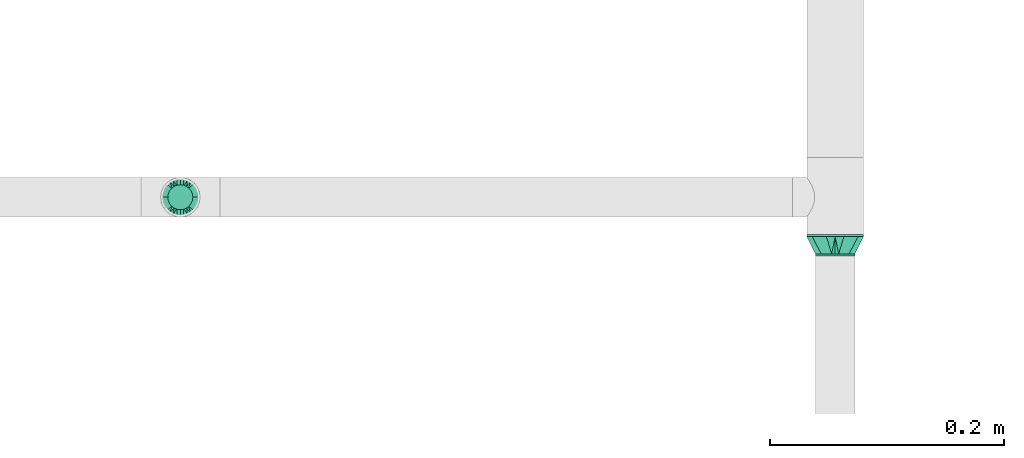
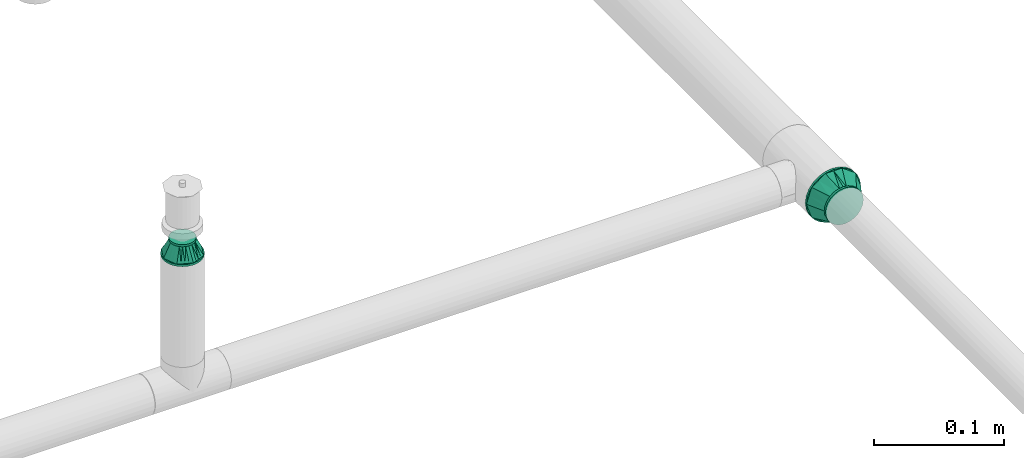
# One storey, part 31 of 157: 2 flow fittings.
"""IFC2X3 building model written with IfcOpenShell, lengths in millimetres."""

from ifc_helpers import new_model, entity, si_unit, converted_unit, derived_unit, direction, frame, origin_with_axes, place, context, subcontext, project, spatial, open_shell, surface_model, source, transform, mapped, type_object, element, save


model = new_model("IFC2X3")

# Units and contexts
model_context = context("Model", 3, precision=0.01, world=frame((0.0, 4.29681676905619e-09, 0.0)), true_north=direction((4.01073788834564e-13, 1.0)))
plan_context = context("Plan", 3, precision=0.01, world=frame((0.0, 4.29681676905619e-09, 0.0)), true_north=direction((4.01073788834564e-13, 1.0)))
body_context = subcontext(model_context, "Body", "Model", "MODEL_VIEW")
ifc_project = project(units=[converted_unit("PLANEANGLEUNIT", "DEGREE", entity("IfcPositiveLengthMeasure", 0.0174532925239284), si_unit("PLANEANGLEUNIT", "RADIAN"), dimensions=[0, 0, 0, 0, 0, 0, 0]), si_unit("AREAUNIT", "SQUARE_METRE"), si_unit("LENGTHUNIT", "METRE", prefix="MILLI"), si_unit("MASSUNIT", "GRAM", prefix="KILO"), si_unit("POWERUNIT", "WATT"), si_unit("PRESSUREUNIT", "PASCAL"), si_unit("FORCEUNIT", "NEWTON", prefix="KILO"), si_unit("ELECTRICCURRENTUNIT", "AMPERE"), si_unit("THERMODYNAMICTEMPERATUREUNIT", "DEGREE_CELSIUS"), si_unit("TIMEUNIT", "SECOND"), si_unit("VOLUMEUNIT", "CUBIC_METRE"), derived_unit("LINEARVELOCITYUNIT", [(si_unit("LENGTHUNIT", "METRE"), 1), (si_unit("TIMEUNIT", "SECOND"), -1)]), derived_unit("VOLUMETRICFLOWRATEUNIT", [(si_unit("VOLUMEUNIT", "CUBIC_METRE"), 1), (si_unit("TIMEUNIT", "SECOND"), -1)]), derived_unit("THERMALTRANSMITTANCEUNIT", [(si_unit("POWERUNIT", "WATT"), 1), (si_unit("THERMODYNAMICTEMPERATUREUNIT", "KELVIN"), -1), (si_unit("AREAUNIT", "SQUARE_METRE"), -1)])], contexts=[model_context, plan_context])

# Site, building, storey
site_placement = place(None, frame((0.0, -4.29681676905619e-09, 0.0), z_axis=(0.0, 0.0, 1.0), x_axis=(1.0, 0.0, 0.0)))
site = spatial("IfcSite", under=ifc_project, at=site_placement, CompositionType="ELEMENT")
building_placement = place(site_placement, frame((0.0, 4.29681676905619e-09, 0.0), z_axis=(0.0, 0.0, 1.0), x_axis=(1.0, 0.0, 0.0)))
building = spatial("IfcBuilding", under=site, at=building_placement, Name="mc-building", CompositionType="ELEMENT")
storey_placement = place(building_placement, frame((0.0, 0.0, 204000.0), z_axis=(0.0, 0.0, 1.0), x_axis=(1.0, 0.0, 0.0)))
storey = spatial("IfcBuildingStorey", under=building, at=storey_placement, Name="Nivå D", CompositionType="ELEMENT", Elevation=204000.0)

# Flow fittings
pipe_fitting_type = type_object("IfcPipeFittingType", Name="magi_pipe_fe_reducer_centric_short_NOR", PredefinedType="TRANSITION")
shared_shape_1 = source(origin_with_axes(), body_context, "Body", "SurfaceModel", [
    surface_model("IfcShellBasedSurfaceModel", [(14.4, 5.35, -9.26647), (14.4, 0.0, -10.7), (14.4, 2.76936, -10.33541), (14.4, 10.33541, -2.76936), (14.4, 7.56604, -7.56604), (14.4, -10.33541, -2.76936), (14.4, 9.26647, -5.35), (14.4, 0.0, 10.7), (14.4, -5.35, -9.26647), (14.4, -2.76936, -10.33541), (14.4, -7.56604, -7.56604), (14.4, -9.26647, -5.35), (14.4, 10.7, 0.0), (14.4, 10.33541, 2.76936), (14.4, 9.26647, 5.35), (14.4, 7.56604, 7.56604), (14.4, 2.76936, 10.33541), (14.4, 5.35, 9.26647), (14.4, -10.33541, 2.76936), (14.4, -7.56604, 7.56604), (14.4, -9.26647, 5.35), (14.4, -10.7, 0.0), (14.4, -2.76936, 10.33541), (14.4, -5.35, 9.26647), (12.4, 2.76936, 10.33541), (12.4, -10.33541, -2.76936), (12.4, 0.0, 10.7), (12.4, 5.35, 9.26647), (12.4, 7.56604, 7.56604), (12.4, 9.26647, 5.35), (12.4, 10.33541, 2.76936), (12.4, -10.33541, 2.76936), (12.4, -2.76936, 10.33541), (12.4, -7.56604, 7.56604), (12.4, -5.35, 9.26647), (12.4, -9.26647, 5.35), (12.4, -10.7, 0.0), (12.4, 10.33541, -2.76936), (12.4, 5.35, -9.26647), (12.4, 9.26647, -5.35), (12.4, 7.56604, -7.56604), (12.4, 2.76936, -10.33541), (12.4, -9.26647, -5.35), (12.4, -5.35, -9.26647), (12.4, -7.56604, -7.56604), (12.4, 0.0, -10.7), (12.4, -2.76936, -10.33541), (12.4, 10.7, 0.0), (-2.0, 11.9501, 11.9501), (-2.0, 0.0, 16.9), (-2.0, 4.37404, 16.32415), (-2.0, 8.45, 14.63583), (-2.0, 14.63583, 8.45), (-2.0, 16.32415, 4.37404), (-2.0, -16.32415, 4.37404), (-2.0, -8.45, 14.63583), (-2.0, -14.63583, 8.45), (-2.0, -11.9501, 11.9501), (-2.0, -4.37404, 16.32415), (-2.0, -16.32415, -4.37404), (-2.0, -16.9, 0.0), (-2.0, -8.45, -14.63583), (-2.0, 16.32415, -4.37404), (-2.0, 11.9501, -11.9501), (-2.0, 14.63583, -8.45), (-2.0, 8.45, -14.63583), (-2.0, 4.37404, -16.32415), (-2.0, 0.0, -16.9), (-2.0, -11.9501, -11.9501), (-2.0, -14.63583, -8.45), (-2.0, -4.37404, -16.32415), (-2.0, 16.9, 0.0), (0.0, 4.37404, -16.32415), (0.0, 8.45, -14.63583), (0.0, 11.9501, -11.9501), (0.0, 0.0, -16.9), (0.0, 16.32415, -4.37404), (0.0, 16.32415, 4.37404), (0.0, 14.63583, -8.45), (0.0, -8.45, -14.63583), (0.0, -4.37404, -16.32415), (0.0, -11.9501, -11.9501), (0.0, -16.32415, -4.37404), (0.0, -14.63583, -8.45), (0.0, -16.32415, 4.37404), (0.0, 16.9, 0.0), (0.0, 14.63583, 8.45), (0.0, 11.9501, 11.9501), (0.0, 4.37404, 16.32415), (0.0, 8.45, 14.63583), (0.0, 0.0, 16.9), (0.0, -14.63583, 8.45), (0.0, -16.9, 0.0), (0.0, -8.45, 14.63583), (0.0, -11.9501, 11.9501), (0.0, -4.37404, 16.32415), (12.4, 9.3625, -2.31662), (0.0, 14.42505, -5.97505), (0.0, 15.66253, -2.98753), (12.4, -6.6875, -6.94985), (0.0, -13.18758, -8.96258), (0.0, 2.98753, -15.66253), (12.4, 0.0, -9.26647), (12.4, 6.6875, -6.94985), (0.0, 8.96258, -13.18758), (12.4, -9.3625, -2.31662), (0.0, -15.66253, -2.98753), (0.0, -14.42505, -5.97505), (0.0, 5.97505, -14.42505), (0.0, -2.98753, -15.66253), (0.0, -8.96258, -13.18758), (0.0, 13.18758, -8.96258), (12.4, 8.025, -4.63324), (12.4, -2.675, -9.26647), (12.4, 2.675, -9.26647), (0.0, -5.97505, -14.42505), (12.4, -8.025, -4.63324), (12.4, -9.3625, 2.31662), (0.0, -14.42505, 5.97505), (0.0, -15.66253, 2.98753), (12.4, 6.6875, 6.94985), (0.0, 13.18758, 8.96258), (0.0, -2.98753, 15.66253), (12.4, 0.0, 9.26647), (12.4, -6.6875, 6.94985), (0.0, -8.96258, 13.18758), (12.4, 9.3625, 2.31662), (0.0, 15.66253, 2.98753), (0.0, 14.42505, 5.97505), (0.0, -5.97505, 14.42505), (0.0, 2.98753, 15.66253), (0.0, 8.96258, 13.18758), (0.0, -13.18758, 8.96258), (12.4, -8.025, 4.63324), (12.4, 2.675, 9.26647), (12.4, -2.675, 9.26647), (0.0, 5.97505, 14.42505), (12.4, 8.025, 4.63324)], [open_shell([[[0, 1, 2]], [[3, 0, 4]], [[5, 0, 3]], [[3, 4, 6]], [[7, 5, 3]], [[1, 8, 9]], [[1, 0, 8]], [[10, 5, 11]], [[5, 10, 8]], [[0, 5, 8]], [[3, 12, 13]], [[13, 14, 15]], [[13, 15, 16]], [[7, 3, 16]], [[16, 15, 17]], [[7, 18, 5]], [[18, 19, 20]], [[21, 5, 18]], [[19, 22, 23]], [[22, 19, 18]], [[7, 22, 18]], [[13, 16, 3]], [[24, 25, 26]], [[27, 25, 24]], [[28, 29, 30]], [[28, 25, 27]], [[31, 26, 25]], [[32, 33, 34]], [[33, 32, 31]], [[33, 31, 35]], [[32, 26, 31]], [[31, 25, 36]], [[30, 37, 28]], [[25, 28, 37]], [[38, 37, 39]], [[37, 38, 25]], [[38, 39, 40]], [[41, 25, 38]], [[42, 43, 44]], [[43, 42, 25]], [[43, 45, 46]], [[43, 25, 41]], [[41, 45, 43]], [[37, 30, 47]], [[25, 5, 36]], [[42, 11, 25]], [[8, 44, 43]], [[42, 44, 10]], [[9, 43, 46]], [[25, 11, 5]], [[5, 21, 36]], [[9, 8, 43]], [[10, 44, 8]], [[10, 11, 42]], [[1, 9, 46]], [[46, 45, 1]], [[41, 2, 45]], [[38, 0, 41]], [[6, 40, 39]], [[38, 40, 4]], [[3, 39, 37]], [[38, 4, 0]], [[0, 2, 41]], [[12, 3, 37]], [[6, 39, 3]], [[6, 4, 40]], [[47, 12, 37]], [[45, 2, 1]], [[30, 13, 47]], [[29, 14, 30]], [[17, 28, 27]], [[29, 28, 15]], [[16, 27, 24]], [[30, 14, 13]], [[13, 12, 47]], [[16, 17, 27]], [[15, 28, 17]], [[15, 14, 29]], [[7, 16, 24]], [[24, 26, 7]], [[32, 22, 26]], [[34, 23, 32]], [[20, 33, 35]], [[34, 33, 19]], [[18, 35, 31]], [[34, 19, 23]], [[23, 22, 32]], [[21, 18, 31]], [[20, 35, 18]], [[20, 19, 33]], [[36, 21, 31]], [[26, 22, 7]], [[48, 49, 50]], [[48, 50, 51]], [[48, 52, 53]], [[48, 53, 49]], [[49, 53, 54]], [[55, 56, 57]], [[55, 58, 49]], [[56, 55, 49]], [[49, 54, 56]], [[54, 59, 60]], [[54, 53, 61]], [[53, 62, 63]], [[63, 62, 64]], [[63, 65, 66]], [[61, 53, 63]], [[67, 63, 66]], [[59, 68, 69]], [[68, 59, 61]], [[61, 67, 70]], [[59, 54, 61]], [[63, 67, 61]], [[53, 71, 62]], [[72, 73, 74]], [[75, 72, 74]], [[74, 76, 77]], [[76, 74, 78]], [[74, 77, 79]], [[75, 79, 80]], [[75, 74, 79]], [[81, 82, 83]], [[82, 81, 79]], [[79, 84, 82]], [[77, 76, 85]], [[77, 86, 87]], [[77, 87, 88]], [[88, 84, 79]], [[88, 87, 89]], [[84, 88, 90]], [[90, 91, 84]], [[92, 82, 84]], [[91, 93, 94]], [[91, 90, 93]], [[93, 90, 95]], [[79, 77, 88]], [[59, 82, 60]], [[69, 83, 59]], [[79, 68, 61]], [[69, 68, 81]], [[80, 61, 70]], [[59, 83, 82]], [[82, 92, 60]], [[80, 79, 61]], [[81, 68, 79]], [[81, 83, 69]], [[75, 80, 70]], [[70, 67, 75]], [[66, 72, 67]], [[65, 73, 66]], [[78, 63, 64]], [[65, 63, 74]], [[76, 64, 62]], [[65, 74, 73]], [[73, 72, 66]], [[85, 76, 62]], [[78, 64, 76]], [[78, 74, 63]], [[71, 85, 62]], [[67, 72, 75]], [[53, 77, 71]], [[52, 86, 53]], [[89, 48, 51]], [[52, 48, 87]], [[88, 51, 50]], [[53, 86, 77]], [[77, 85, 71]], [[88, 89, 51]], [[87, 48, 89]], [[87, 86, 52]], [[90, 88, 50]], [[50, 49, 90]], [[58, 95, 49]], [[55, 93, 58]], [[91, 57, 56]], [[55, 57, 94]], [[84, 56, 54]], [[55, 94, 93]], [[93, 95, 58]], [[92, 84, 54]], [[91, 56, 84]], [[91, 94, 57]], [[60, 92, 54]], [[49, 95, 90]], [[27, 34, 47]], [[47, 34, 43]], [[43, 38, 47]], [[43, 34, 36]], [[90, 87, 94]], [[92, 94, 87]], [[87, 74, 92]], [[75, 92, 74]], [[81, 92, 75]], [[74, 87, 85]], [[96, 97, 98]], [[81, 99, 100]], [[101, 102, 75]], [[98, 85, 47]], [[74, 103, 104]], [[104, 103, 38]], [[105, 106, 107]], [[38, 108, 104]], [[102, 109, 75]], [[110, 99, 81]], [[47, 96, 98]], [[103, 111, 112]], [[109, 102, 113]], [[36, 92, 106]], [[102, 101, 114]], [[110, 115, 43]], [[96, 112, 97]], [[107, 116, 105]], [[36, 106, 105]], [[113, 115, 109]], [[43, 115, 113]], [[116, 107, 100]], [[108, 38, 114]], [[111, 103, 74]], [[111, 97, 112]], [[99, 110, 43]], [[116, 100, 99]], [[101, 108, 114]], [[117, 118, 119]], [[87, 120, 121]], [[122, 123, 90]], [[119, 92, 36]], [[94, 124, 125]], [[125, 124, 34]], [[126, 127, 128]], [[34, 129, 125]], [[123, 130, 90]], [[131, 120, 87]], [[36, 117, 119]], [[124, 132, 133]], [[130, 123, 134]], [[47, 85, 127]], [[123, 122, 135]], [[131, 136, 27]], [[117, 133, 118]], [[128, 137, 126]], [[47, 127, 126]], [[134, 136, 130]], [[27, 136, 134]], [[137, 128, 121]], [[129, 34, 135]], [[132, 124, 94]], [[132, 118, 133]], [[120, 131, 27]], [[137, 121, 120]], [[122, 129, 135]]])]),
])
flow_fitting_1_placement = place(storey_placement, frame((530770.35, 404401.65, 3002.14799999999), z_axis=(0.0, -1.0, 0.0), x_axis=(0.0, 0.0, 1.0)))
element("IfcFlowFitting", 1, at=flow_fitting_1_placement, inside=storey, type_object=pipe_fitting_type, Name="magi_pipe_fe_reducer_centric_short_NOR", context=body_context, shape_type="MappedRepresentation", body=[
    mapped(shared_shape_1, transform((0.0, 0.0, 0.0), scale=1.0)),
])
shared_shape_2 = source(origin_with_axes(), body_context, "Body", "SurfaceModel", [
    surface_model("IfcShellBasedSurfaceModel", [(-2.0, 0.0, 24.2), (-2.0, 6.26342, 23.37541), (-2.0, 12.1, 20.95781), (-2.0, 17.11198, 17.11198), (-2.0, 24.2, 0.0), (-2.0, 20.95781, 12.1), (-2.0, -23.37541, 6.26342), (-2.0, -17.11198, -17.11198), (-2.0, -6.26342, 23.37541), (-2.0, -17.11198, 17.11198), (-2.0, -12.1, 20.95781), (-2.0, -20.95781, 12.1), (-2.0, -24.2, 0.0), (-2.0, 23.37541, 6.26342), (-2.0, 23.37541, -6.26342), (-2.0, 6.26342, -23.37541), (-2.0, 17.11198, -17.11198), (-2.0, 20.95781, -12.1), (-2.0, 12.1, -20.95781), (-2.0, -23.37541, -6.26342), (-2.0, -20.95781, -12.1), (-2.0, -6.26342, -23.37541), (-2.0, -12.1, -20.95781), (-2.0, 0.0, -24.2), (0.0, 24.2, 0.0), (0.0, 6.26342, -23.37541), (0.0, 12.1, -20.95781), (0.0, 23.37541, -6.26342), (0.0, 17.11198, -17.11198), (0.0, 20.95781, -12.1), (0.0, -24.2, 0.0), (0.0, -12.1, -20.95781), (0.0, -6.26342, -23.37541), (0.0, 0.0, -24.2), (0.0, -17.11198, -17.11198), (0.0, -23.37541, -6.26342), (0.0, -20.95781, -12.1), (0.0, 20.95781, 12.1), (0.0, 17.11198, 17.11198), (0.0, 12.1, 20.95781), (0.0, 6.26342, 23.37541), (0.0, 0.0, 24.2), (0.0, -23.37541, 6.26342), (0.0, -17.11198, 17.11198), (0.0, -20.95781, 12.1), (0.0, -6.26342, 23.37541), (0.0, -12.1, 20.95781), (0.0, 23.37541, 6.26342), (0.0, 7.47821, 23.01557), (0.0, 19.57821, 14.2244), (0.0, -7.47821, 23.01557), (0.0, 7.47821, -23.01557), (0.0, 19.57821, -14.2244), (0.0, -7.47821, -23.01557), (0.0, -19.57821, -14.2244), (16.6, 4.37404, -16.32415), (16.6, 8.45, -14.63583), (16.6, 11.9501, -11.9501), (16.6, 0.0, -16.9), (16.6, 16.32415, -4.37404), (16.6, 16.32415, 4.37404), (16.6, 14.63583, -8.45), (16.6, -8.45, 14.63583), (16.6, -8.45, -14.63583), (16.6, -4.37404, -16.32415), (16.6, -11.9501, -11.9501), (16.6, -16.32415, -4.37404), (16.6, -14.63583, -8.45), (16.6, -16.32415, 4.37404), (16.6, 16.9, 0.0), (16.6, 14.63583, 8.45), (16.6, 11.9501, 11.9501), (16.6, 4.37404, 16.32415), (16.6, 8.45, 14.63583), (16.6, 0.0, 16.9), (16.6, -14.63583, 8.45), (16.6, -16.9, 0.0), (16.6, -11.9501, 11.9501), (16.6, -4.37404, 16.32415), (14.6, 11.9501, 11.9501), (14.6, 0.0, 16.9), (14.6, 4.37404, 16.32415), (14.6, 8.45, 14.63583), (14.6, 14.63583, 8.45), (14.6, 16.32415, 4.37404), (14.6, -16.32415, 4.37404), (14.6, -8.45, -14.63583), (14.6, -8.45, 14.63583), (14.6, -14.63583, 8.45), (14.6, -11.9501, 11.9501), (14.6, -4.37404, 16.32415), (14.6, -16.32415, -4.37404), (14.6, -16.9, 0.0), (14.6, 16.32415, -4.37404), (14.6, 11.9501, -11.9501), (14.6, 14.63583, -8.45), (14.6, 8.45, -14.63583), (14.6, 4.37404, -16.32415), (14.6, 0.0, -16.9), (14.6, -11.9501, -11.9501), (14.6, -14.63583, -8.45), (14.6, -4.37404, -16.32415), (14.6, 16.9, 0.0), (0.0, -19.57821, 14.2244), (14.6, -13.18758, -8.96258), (14.6, 14.42505, -5.97505), (0.0, 21.8891, -7.1122), (0.0, 13.52821, -18.61999), (0.0, 16.55321, -16.42219), (14.6, -14.42505, -5.97505), (0.0, -21.8891, -7.1122), (0.0, -20.73366, -10.6683), (14.6, 5.97505, -14.42505), (0.0, 0.0, -23.01557), (14.6, -2.98753, -15.66253), (14.6, 2.98753, -15.66253), (14.6, 8.96258, -13.18758), (14.6, 15.66253, -2.98753), (14.6, -15.66253, -2.98753), (0.0, -13.52821, -18.61999), (14.6, -5.97505, -14.42505), (14.6, -8.96258, -13.18758), (14.6, 13.18758, -8.96258), (14.6, 13.18758, 8.96258), (14.6, -14.42505, 5.97505), (0.0, -21.8891, 7.1122), (0.0, -13.52821, 18.61999), (0.0, -16.55321, 16.42219), (14.6, 14.42505, 5.97505), (0.0, 21.8891, 7.1122), (0.0, 20.73366, 10.6683), (14.6, -5.97505, 14.42505), (0.0, 0.0, 23.01557), (14.6, 2.98753, 15.66253), (14.6, -2.98753, 15.66253), (14.6, -8.96258, 13.18758), (14.6, -15.66253, 2.98753), (14.6, 15.66253, 2.98753), (0.0, 13.52821, 18.61999), (14.6, 5.97505, 14.42505), (14.6, 8.96258, 13.18758), (14.6, -13.18758, 8.96258)], [open_shell([[[0, 1, 2]], [[0, 2, 3]], [[4, 3, 5]], [[6, 0, 7]], [[0, 3, 7]], [[8, 9, 10]], [[8, 0, 9]], [[9, 6, 11]], [[0, 6, 9]], [[6, 7, 12]], [[4, 5, 13]], [[3, 14, 15]], [[16, 14, 17]], [[18, 15, 14]], [[18, 14, 16]], [[15, 7, 3]], [[19, 7, 20]], [[12, 7, 19]], [[15, 21, 22]], [[22, 7, 15]], [[21, 15, 23]], [[14, 3, 4]], [[24, 25, 26]], [[27, 26, 28]], [[27, 24, 26]], [[27, 28, 29]], [[25, 30, 31]], [[25, 32, 33]], [[25, 31, 32]], [[34, 35, 36]], [[34, 31, 30]], [[34, 30, 35]], [[25, 24, 37]], [[37, 38, 25]], [[25, 38, 30]], [[39, 40, 41]], [[39, 41, 38]], [[30, 38, 41]], [[42, 43, 44]], [[45, 42, 30]], [[43, 45, 46]], [[45, 43, 42]], [[30, 41, 45]], [[24, 47, 37]], [[19, 35, 12]], [[20, 36, 19]], [[31, 7, 22]], [[20, 7, 34]], [[32, 22, 21]], [[19, 36, 35]], [[35, 30, 12]], [[32, 31, 22]], [[34, 7, 31]], [[34, 36, 20]], [[33, 32, 21]], [[21, 23, 33]], [[15, 25, 23]], [[18, 26, 15]], [[29, 16, 17]], [[18, 16, 28]], [[27, 17, 14]], [[18, 28, 26]], [[26, 25, 15]], [[24, 27, 14]], [[29, 17, 27]], [[29, 28, 16]], [[4, 24, 14]], [[23, 25, 33]], [[13, 47, 4]], [[5, 37, 13]], [[39, 3, 2]], [[5, 3, 38]], [[40, 2, 1]], [[13, 37, 47]], [[47, 24, 4]], [[40, 39, 2]], [[38, 3, 39]], [[38, 37, 5]], [[41, 40, 1]], [[1, 0, 41]], [[8, 45, 0]], [[10, 46, 8]], [[44, 9, 11]], [[10, 9, 43]], [[42, 11, 6]], [[10, 43, 46]], [[46, 45, 8]], [[30, 42, 6]], [[44, 11, 42]], [[44, 43, 9]], [[12, 30, 6]], [[0, 45, 41]], [[48, 49, 50]], [[49, 51, 30]], [[52, 51, 49]], [[30, 53, 54]], [[30, 51, 53]], [[49, 24, 52]], [[55, 56, 57]], [[58, 55, 57]], [[57, 59, 60]], [[59, 57, 61]], [[57, 62, 63]], [[58, 63, 64]], [[58, 57, 63]], [[65, 66, 67]], [[66, 65, 63]], [[63, 68, 66]], [[60, 59, 69]], [[60, 70, 71]], [[60, 71, 72]], [[60, 72, 62]], [[72, 71, 73]], [[62, 72, 74]], [[68, 62, 75]], [[76, 66, 68]], [[75, 62, 77]], [[62, 68, 63]], [[74, 78, 62]], [[57, 60, 62]], [[79, 80, 81]], [[79, 81, 82]], [[79, 83, 84]], [[79, 84, 80]], [[85, 80, 86]], [[87, 88, 89]], [[88, 87, 90]], [[80, 88, 90]], [[80, 85, 88]], [[85, 91, 92]], [[86, 80, 84]], [[84, 93, 94]], [[94, 93, 95]], [[94, 96, 97]], [[86, 84, 94]], [[97, 98, 94]], [[91, 99, 100]], [[99, 91, 86]], [[86, 98, 101]], [[91, 85, 86]], [[94, 98, 86]], [[93, 84, 102]], [[91, 66, 92]], [[100, 67, 91]], [[63, 99, 86]], [[100, 99, 65]], [[64, 86, 101]], [[91, 67, 66]], [[66, 76, 92]], [[64, 63, 86]], [[65, 99, 63]], [[65, 67, 100]], [[58, 64, 101]], [[101, 98, 58]], [[97, 55, 98]], [[96, 56, 97]], [[61, 94, 95]], [[96, 94, 57]], [[59, 95, 93]], [[96, 57, 56]], [[56, 55, 97]], [[69, 59, 93]], [[61, 95, 59]], [[61, 57, 94]], [[102, 69, 93]], [[98, 55, 58]], [[84, 60, 102]], [[83, 70, 84]], [[73, 79, 82]], [[83, 79, 71]], [[72, 82, 81]], [[84, 70, 60]], [[60, 69, 102]], [[72, 73, 82]], [[71, 79, 73]], [[71, 70, 83]], [[74, 72, 81]], [[81, 80, 74]], [[90, 78, 80]], [[87, 62, 90]], [[75, 89, 88]], [[87, 89, 77]], [[68, 88, 85]], [[87, 77, 62]], [[62, 78, 90]], [[76, 68, 85]], [[75, 88, 68]], [[75, 77, 89]], [[92, 76, 85]], [[80, 78, 74]], [[80, 89, 102]], [[102, 79, 80]], [[89, 99, 102]], [[98, 102, 99]], [[94, 102, 98]], [[99, 89, 92]], [[50, 30, 103]], [[30, 50, 49]], [[54, 99, 104]], [[105, 52, 106]], [[94, 107, 108]], [[109, 110, 111]], [[51, 107, 112]], [[113, 114, 53]], [[113, 115, 98]], [[116, 112, 107]], [[24, 117, 106]], [[51, 115, 113]], [[30, 118, 92]], [[99, 54, 119]], [[119, 120, 121]], [[30, 110, 118]], [[117, 24, 102]], [[52, 105, 122]], [[114, 120, 53]], [[114, 113, 98]], [[51, 112, 115]], [[94, 108, 52]], [[109, 118, 110]], [[54, 104, 111]], [[104, 109, 111]], [[94, 52, 122]], [[120, 119, 53]], [[121, 99, 119]], [[117, 105, 106]], [[107, 94, 116]], [[49, 79, 123]], [[124, 103, 125]], [[89, 126, 127]], [[128, 129, 130]], [[50, 126, 131]], [[132, 133, 48]], [[132, 134, 80]], [[135, 131, 126]], [[30, 136, 125]], [[50, 134, 132]], [[24, 137, 102]], [[79, 49, 138]], [[138, 139, 140]], [[24, 129, 137]], [[136, 30, 92]], [[103, 124, 141]], [[133, 139, 48]], [[133, 132, 80]], [[50, 131, 134]], [[89, 127, 103]], [[128, 137, 129]], [[49, 123, 130]], [[123, 128, 130]], [[89, 103, 141]], [[139, 138, 48]], [[140, 79, 138]], [[136, 124, 125]], [[126, 89, 135]]])]),
])
flow_fitting_2_placement = place(storey_placement, frame((531330.55939, 404367.85, 2880.0), z_axis=(0.0, 0.0, 1.0), x_axis=(0.0, -1.0, 0.0)))
element("IfcFlowFitting", 2, at=flow_fitting_2_placement, inside=storey, type_object=pipe_fitting_type, Name="magi_pipe_fe_reducer_centric_short_NOR", context=body_context, shape_type="MappedRepresentation", body=[
    mapped(shared_shape_2, transform((0.0, 0.0, 0.0), scale=1.0)),
])

save(model, "model.ifc")
